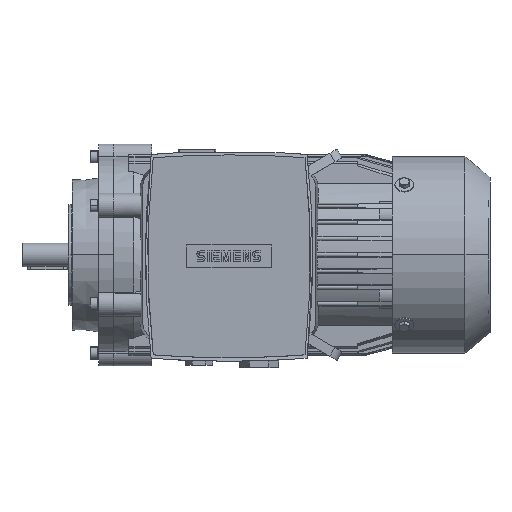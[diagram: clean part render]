
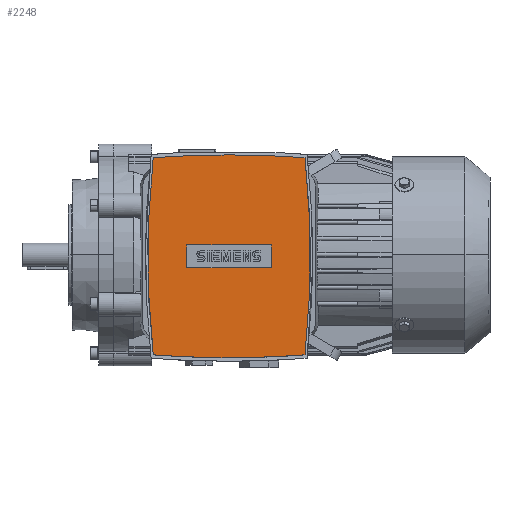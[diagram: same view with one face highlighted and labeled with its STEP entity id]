
A CAD part, top view. The second image highlights one B-rep face of the part: STEP entity #2248.
In plain terms, the highlighted planar face has unit normal (0, 0, 1).
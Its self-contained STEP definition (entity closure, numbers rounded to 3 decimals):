
#2248=ADVANCED_FACE('',(#5149,#5150),#5151,.T.);
#5149=FACE_BOUND('',#9232,.T.);
#5150=FACE_OUTER_BOUND('',#9233,.T.);
#5151=PLANE('',#9234);
#9232=EDGE_LOOP('',(#14178,#14179,#14180,#14181));
#9233=EDGE_LOOP('',(#14182,#14183,#14184,#14185,#14186,#14187));
#9234=AXIS2_PLACEMENT_3D('',#14188,#14189,#14190);
#14178=ORIENTED_EDGE('',*,*,#25183,.T.);
#14179=ORIENTED_EDGE('',*,*,#25187,.T.);
#14180=ORIENTED_EDGE('',*,*,#25190,.T.);
#14181=ORIENTED_EDGE('',*,*,#25192,.T.);
#14182=ORIENTED_EDGE('',*,*,#25268,.T.);
#14183=ORIENTED_EDGE('',*,*,#25270,.T.);
#14184=ORIENTED_EDGE('',*,*,#24758,.T.);
#14185=ORIENTED_EDGE('',*,*,#25262,.T.);
#14186=ORIENTED_EDGE('',*,*,#24769,.T.);
#14187=ORIENTED_EDGE('',*,*,#25259,.T.);
#14188=CARTESIAN_POINT('',(92.0,-1.5,248.0));
#14189=DIRECTION('',(0.0,0.0,1.0));
#14190=DIRECTION('',(0.0,-1.0,0.0));
#24758=EDGE_CURVE('',#29453,#29457,#29459,.T.);
#24769=EDGE_CURVE('',#29479,#29476,#29480,.T.);
#25183=EDGE_CURVE('',#30099,#30097,#30100,.T.);
#25187=EDGE_CURVE('',#30097,#30103,#30105,.T.);
#25190=EDGE_CURVE('',#30103,#30107,#30109,.T.);
#25192=EDGE_CURVE('',#30107,#30099,#30111,.T.);
#25259=EDGE_CURVE('',#29476,#30206,#30208,.T.);
#25262=EDGE_CURVE('',#29457,#29479,#30211,.T.);
#25268=EDGE_CURVE('',#30206,#30216,#30218,.T.);
#25270=EDGE_CURVE('',#30216,#29453,#30220,.T.);
#29453=VERTEX_POINT('',#36390);
#29457=VERTEX_POINT('',#36395);
#29459=CIRCLE('',#36398,828.12);
#29476=VERTEX_POINT('',#36440);
#29479=VERTEX_POINT('',#36444);
#29480=CIRCLE('',#36445,828.12);
#30097=VERTEX_POINT('',#37324);
#30099=VERTEX_POINT('',#37327);
#30100=LINE('',#37328,#37329);
#30103=VERTEX_POINT('',#37333);
#30105=LINE('',#37336,#37337);
#30107=VERTEX_POINT('',#37339);
#30109=LINE('',#37342,#37343);
#30111=LINE('',#37345,#37346);
#30206=VERTEX_POINT('',#37484);
#30208=CIRCLE('',#37487,828.12);
#30211=CIRCLE('',#37490,717.2);
#30216=VERTEX_POINT('',#37496);
#30218=CIRCLE('',#37499,717.2);
#30220=CIRCLE('',#37501,828.12);
#36390=CARTESIAN_POINT('',(92.,-82.5,248.0));
#36395=CARTESIAN_POINT('',(152.661,-80.275,248.0));
#36398=AXIS2_PLACEMENT_3D('',#49180,#49181,#49182);
#36440=CARTESIAN_POINT('',(92.,79.5,248.0));
#36444=CARTESIAN_POINT('',(152.661,77.275,248.0));
#36445=AXIS2_PLACEMENT_3D('',#49196,#49197,#49198);
#37324=CARTESIAN_POINT('',(58.25,-10.55,248.0));
#37327=CARTESIAN_POINT('',(125.75,-10.55,248.0));
#37328=CARTESIAN_POINT('',(92.0,-10.55,248.0));
#37329=VECTOR('',#49582,1.0);
#37333=CARTESIAN_POINT('',(58.25,7.55,248.0));
#37336=CARTESIAN_POINT('',(58.25,-1.5,248.0));
#37337=VECTOR('',#49585,1.0);
#37339=CARTESIAN_POINT('',(125.75,7.55,248.0));
#37342=CARTESIAN_POINT('',(92.0,7.55,248.0));
#37343=VECTOR('',#49587,1.0);
#37345=CARTESIAN_POINT('',(125.75,-1.5,248.0));
#37346=VECTOR('',#49588,1.0);
#37484=CARTESIAN_POINT('',(31.339,77.275,248.0));
#37487=AXIS2_PLACEMENT_3D('',#49687,#49688,#49689);
#37490=AXIS2_PLACEMENT_3D('',#49690,#49691,#49692);
#37496=CARTESIAN_POINT('',(31.339,-80.275,248.0));
#37499=AXIS2_PLACEMENT_3D('',#49695,#49696,#49697);
#37501=AXIS2_PLACEMENT_3D('',#49698,#49699,#49700);
#49180=CARTESIAN_POINT('',(92.0,745.62,248.0));
#49181=DIRECTION('',(0.0,-0.0,1.0));
#49182=DIRECTION('',(0.0,1.0,0.0));
#49196=CARTESIAN_POINT('',(92.0,-748.62,248.0));
#49197=DIRECTION('',(0.0,-0.0,1.0));
#49198=DIRECTION('',(0.0,1.0,0.0));
#49582=DIRECTION('',(-1.0,0.0,0.0));
#49585=DIRECTION('',(0.0,1.0,0.0));
#49587=DIRECTION('',(1.0,0.0,-0.0));
#49588=DIRECTION('',(0.0,-1.0,0.0));
#49687=CARTESIAN_POINT('',(92.0,-748.62,248.0));
#49688=DIRECTION('',(0.0,-0.0,1.0));
#49689=DIRECTION('',(0.0,1.0,0.0));
#49690=CARTESIAN_POINT('',(-560.2,-1.5,248.0));
#49691=DIRECTION('',(0.0,-0.0,1.0));
#49692=DIRECTION('',(0.0,1.0,0.0));
#49695=CARTESIAN_POINT('',(744.2,-1.5,248.0));
#49696=DIRECTION('',(0.0,-0.0,1.0));
#49697=DIRECTION('',(0.0,1.0,0.0));
#49698=CARTESIAN_POINT('',(92.0,745.62,248.0));
#49699=DIRECTION('',(0.0,-0.0,1.0));
#49700=DIRECTION('',(0.0,1.0,0.0));
